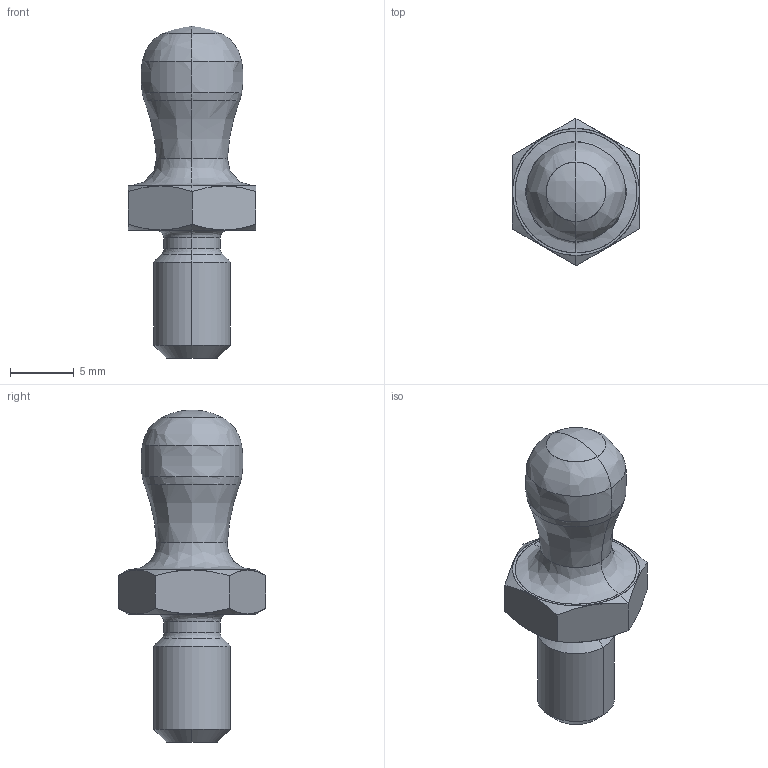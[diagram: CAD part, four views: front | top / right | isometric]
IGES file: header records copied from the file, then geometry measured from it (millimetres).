
Start section: SolidWorks IGES file using analytic representation for surfaces
Global section: file name: C:\@ SW-Test\HW730\Befestigungsstift HW730.IGS; native system: SolidWorks 2017; preprocessor: SolidWorks 2017; author: stu; date: 171122.080449; units: millimetre
Bounding box: 10.02 x 11.55 x 26 mm (x, y, z)
Surface area: 709.6 mm2 (no closed solid volume)
Topology: 0 solids, 0 shells, 37 faces, 414 edges, 414 vertices
Faces by surface type: bspline 25, revolution 12
